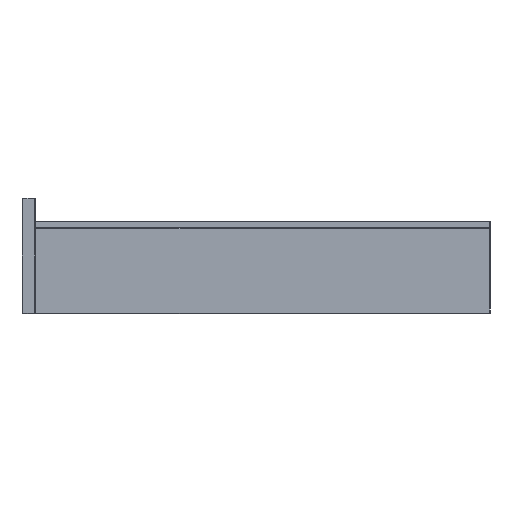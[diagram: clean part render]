
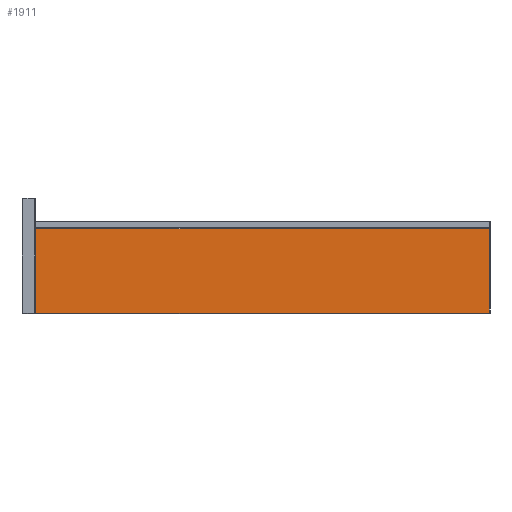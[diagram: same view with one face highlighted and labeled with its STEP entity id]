
A CAD part, left-side view. The second image highlights one B-rep face of the part: STEP entity #1911.
In plain terms, the highlighted planar face has unit normal (-1, 0, 0) as drawn and (0, 1, 0) by its records, which use the part's own axes.
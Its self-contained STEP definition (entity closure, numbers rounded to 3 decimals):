
#15 = DIRECTION ( 'NONE',  ( 1., 0., 0. ) ) ;
#64 = CARTESIAN_POINT ( 'NONE',  ( 64., 10., 0. ) ) ;
#100 = CARTESIAN_POINT ( 'NONE',  ( 64., 10., -344. ) ) ;
#243 = DIRECTION ( 'NONE',  ( 0., 0., 1. ) ) ;
#256 = VECTOR ( 'NONE', #243, 1000. ) ;
#266 = VECTOR ( 'NONE', #15, 1000. ) ;
#287 = LINE ( 'NONE', #1488, #1208 ) ;
#341 = CARTESIAN_POINT ( 'NONE',  ( -64., 10., -344. ) ) ;
#469 = EDGE_CURVE ( 'NONE', #2617, #1341, #287, .T. ) ;
#495 = EDGE_CURVE ( 'NONE', #2148, #2617, #1098, .T. ) ;
#592 = ORIENTED_EDGE ( 'NONE', *, *, #469, .T. ) ;
#713 = DIRECTION ( 'NONE',  ( 0., -1., 0. ) ) ;
#722 = PLANE ( 'NONE',  #1149 ) ;
#1028 = LINE ( 'NONE', #2088, #266 ) ;
#1098 = LINE ( 'NONE', #64, #2514 ) ;
#1112 = EDGE_CURVE ( 'NONE', #1200, #2148, #1028, .T. ) ;
#1149 = AXIS2_PLACEMENT_3D ( 'NONE', #1757, #713, #1545 ) ;
#1185 = CARTESIAN_POINT ( 'NONE',  ( 64., 10., 344. ) ) ;
#1200 = VERTEX_POINT ( 'NONE', #1674 ) ;
#1208 = VECTOR ( 'NONE', #1306, 1000. ) ;
#1210 = ORIENTED_EDGE ( 'NONE', *, *, #1112, .T. ) ;
#1271 = LINE ( 'NONE', #2101, #256 ) ;
#1306 = DIRECTION ( 'NONE',  ( -1., 0., 0. ) ) ;
#1341 = VERTEX_POINT ( 'NONE', #341 ) ;
#1488 = CARTESIAN_POINT ( 'NONE',  ( 0., 10., -344. ) ) ;
#1545 = DIRECTION ( 'NONE',  ( 0., 0., -1. ) ) ;
#1641 = ORIENTED_EDGE ( 'NONE', *, *, #2415, .T. ) ;
#1674 = CARTESIAN_POINT ( 'NONE',  ( -64., 10., 344. ) ) ;
#1757 = CARTESIAN_POINT ( 'NONE',  ( 0., 10., 0. ) ) ;
#1911 = ADVANCED_FACE ( 'NONE', ( #1970 ), #722, .F. ) ;
#1970 = FACE_OUTER_BOUND ( 'NONE', #2024, .T. ) ;
#2024 = EDGE_LOOP ( 'NONE', ( #1641, #1210, #2247, #592 ) ) ;
#2088 = CARTESIAN_POINT ( 'NONE',  ( 0., 10., 344. ) ) ;
#2101 = CARTESIAN_POINT ( 'NONE',  ( -64., 10., 0. ) ) ;
#2148 = VERTEX_POINT ( 'NONE', #1185 ) ;
#2247 = ORIENTED_EDGE ( 'NONE', *, *, #495, .T. ) ;
#2343 = DIRECTION ( 'NONE',  ( 0., 0., -1. ) ) ;
#2415 = EDGE_CURVE ( 'NONE', #1341, #1200, #1271, .T. ) ;
#2514 = VECTOR ( 'NONE', #2343, 1000. ) ;
#2617 = VERTEX_POINT ( 'NONE', #100 ) ;
